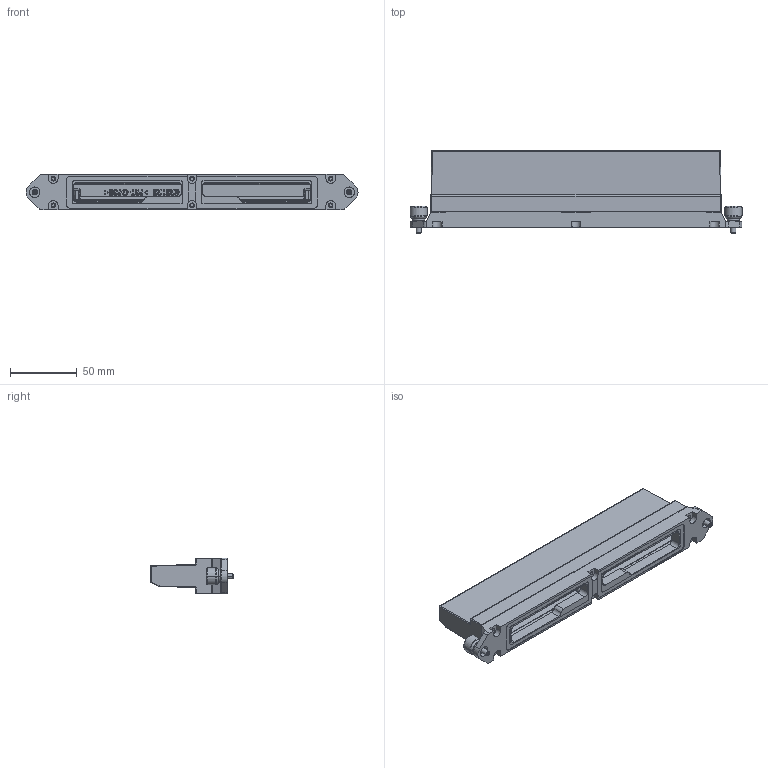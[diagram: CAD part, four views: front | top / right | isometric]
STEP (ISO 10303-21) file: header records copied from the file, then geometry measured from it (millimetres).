
FILE_DESCRIPTION((''),'2;1');
FILE_NAME('W0001356345_ASM','2024-08-14T10:41:38',('RRajan1'),('Rockwell Automation'),'CREO PARAMETRIC BY PTC INC, 2020281','CREO PARAMETRIC BY PTC INC, 2020281','');
FILE_SCHEMA(('CONFIG_CONTROL_DESIGN'));
Length unit declared in the file: millimetre
Products named in the file (7): 10004195710; 10004203877; W0001356347_ASM; 10004181678; 10004410480; W0001356351_ASM; W0001356345_ASM
Assembly tree (12 placements, depth 3):
  W0001356345_ASM
    W0001356347_ASM
      10004195710
      10004203877  x2
    W0001356351_ASM
      10004181678
      10004410480  x6
Bounding box: 249.06 x 61.82 x 27 mm (x, y, z)
Volume: 109627.7 mm3; surface area: 76219.4 mm2
Topology: 10 solids, 10 shells, 1384 faces, 3390 edges, 2106 vertices
Faces by surface type: cylinder 432, plane 420, extrusion 194, cone 144, bspline 118, sphere 72, torus 4
Entity records: 41183 total; most frequent: CARTESIAN_POINT 15016, ORIENTED_EDGE 5680, DIRECTION 4844, EDGE_CURVE 2840, VERTEX_POINT 1777, VECTOR 1632, AXIS2_PLACEMENT_3D 1606, LINE 1438
